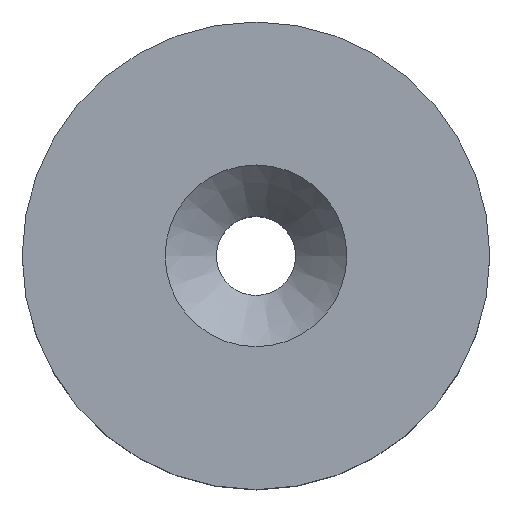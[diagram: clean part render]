
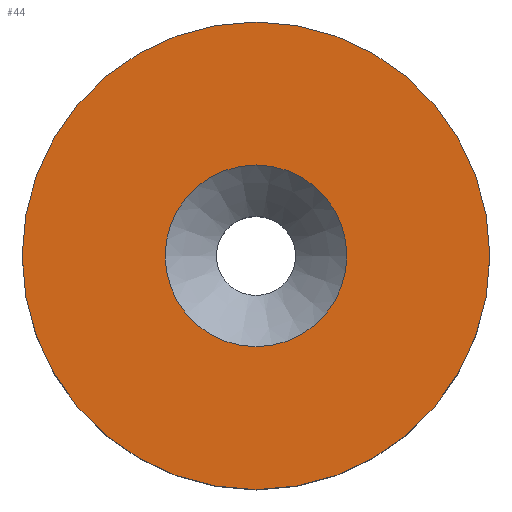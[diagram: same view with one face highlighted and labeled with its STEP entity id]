
A CAD part, top view. The second image highlights one B-rep face of the part: STEP entity #44.
In plain terms, the highlighted planar face has unit normal (0, 0, 1).
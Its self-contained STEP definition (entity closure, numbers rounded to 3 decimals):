
#40=PLANE('',#131);
#44=ADVANCED_FACE('',(#55,#56),#40,.F.);
#55=FACE_BOUND('',#71,.T.);
#56=FACE_BOUND('',#72,.T.);
#71=EDGE_LOOP('',(#87));
#72=EDGE_LOOP('',(#88));
#87=ORIENTED_EDGE('',*,*,#111,.F.);
#88=ORIENTED_EDGE('',*,*,#107,.T.);
#99=VERTEX_POINT('',#176);
#103=VERTEX_POINT('',#186);
#107=EDGE_CURVE('',#99,#99,#115,.T.);
#111=EDGE_CURVE('',#103,#103,#119,.T.);
#115=CIRCLE('',#124,5.05);
#119=CIRCLE('',#130,13.);
#124=AXIS2_PLACEMENT_3D('',#175,#142,#143);
#130=AXIS2_PLACEMENT_3D('',#185,#154,#155);
#131=AXIS2_PLACEMENT_3D('',#187,#156,#157);
#142=DIRECTION('',(0.,0.,-1.));
#143=DIRECTION('',(-1.,0.,0.));
#154=DIRECTION('',(0.,0.,-1.));
#155=DIRECTION('',(-1.,0.,0.));
#156=DIRECTION('',(0.,0.,-1.));
#157=DIRECTION('',(-1.,0.,0.));
#175=CARTESIAN_POINT('',(0.,0.,11.));
#176=CARTESIAN_POINT('',(-5.05,0.,11.));
#185=CARTESIAN_POINT('',(0.,0.,11.));
#186=CARTESIAN_POINT('',(-13.,0.,11.));
#187=CARTESIAN_POINT('',(5.05,0.,11.));
